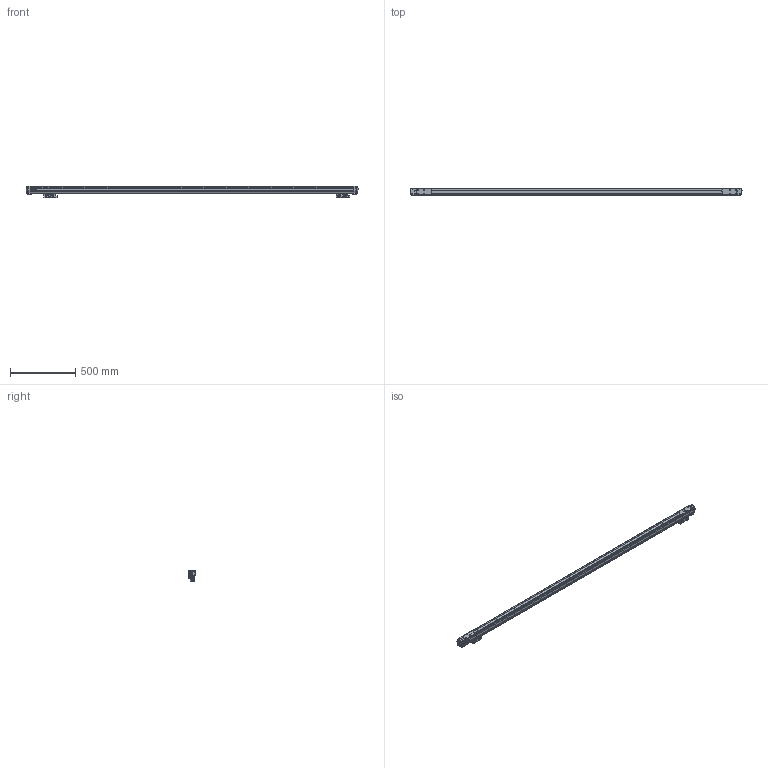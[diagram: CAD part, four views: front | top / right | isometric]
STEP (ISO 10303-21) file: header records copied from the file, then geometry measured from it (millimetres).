
FILE_DESCRIPTION(('Creo Elements/Direct Modeling STEP Export'),'2;1');
FILE_NAME('Li-22-M.stp','2021-04-23T13:33:54',(''),(''),'Creo Elements/Direct Modeling STEP processor for AP214 (Solid Model)','Creo Elements/Direct Modeling 19.0G 27-Nov-2017 (C) Parametric Technology GmbH','');
FILE_SCHEMA(('AUTOMOTIVE_DESIGN { 1 0 10303 214 1 1 1 1 }'));
Length unit declared in the file: millimetre
Products named in the file (3): CABEZA_Li.1; Perfil_Li-22_M; Li-22-M
Assembly tree (3 placements, depth 2):
  Li-22-M
    Perfil_Li-22_M
    CABEZA_Li.1  x2
Bounding box: 2541.61 x 50 x 86.45 mm (x, y, z)
Volume: 6531587.8 mm3; surface area: 816150.8 mm2
Topology: 5 solids, 47 shells, 3432 faces, 9398 edges, 6121 vertices
Faces by surface type: cylinder 1293, plane 1287, bspline 356, cone 324, torus 144, sphere 28
Entity records: 127653 total; most frequent: CARTESIAN_POINT 51371, ORIENTED_EDGE 14742, DIRECTION 12073, EDGE_CURVE 7371, VERTEX_POINT 4791, AXIS2_PLACEMENT_3D 4374, VECTOR 3325, LINE 3325
